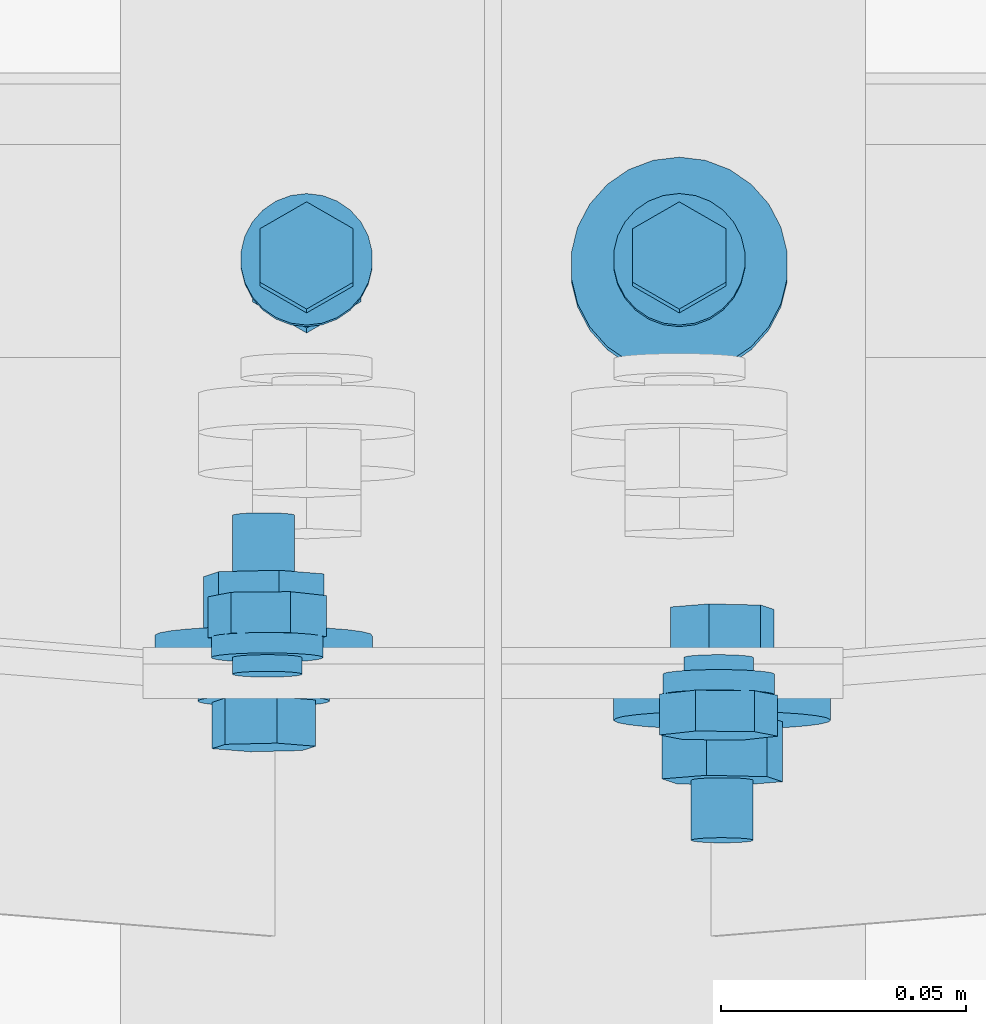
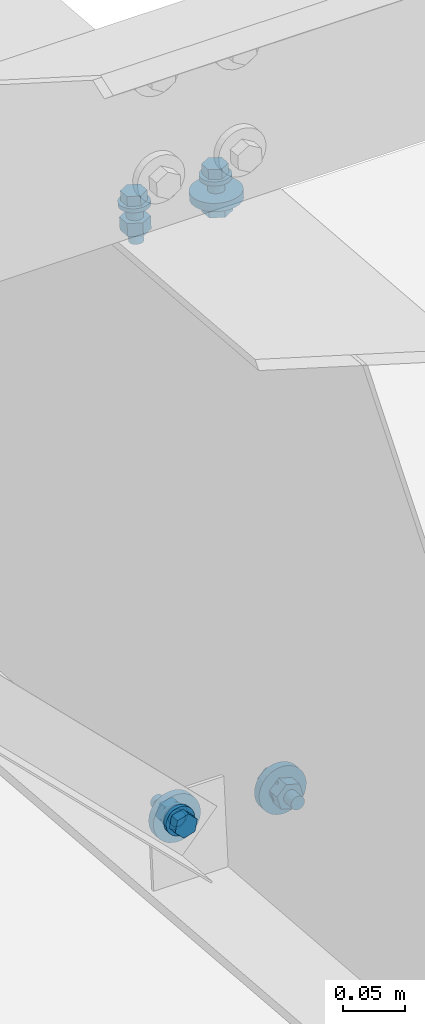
# One storey, part 158 of 185: 6 mechanical fasteners, 4 elements without a shape of their own.
"""IFC2X3 building model written with IfcOpenShell, lengths in millimetres."""

from ifc_helpers import new_model, si_unit, frame, origin_with_axes, origin_2d_with_axis, place, context, subcontext, project, spatial, polyline, circle, outline, extrude, source, transform, mapped, material, type_object, element, aggregate, save


model = new_model("IFC2X3")

# Units and contexts
model_context = context("Model", 3, precision=1e-05, world=origin_with_axes())
body_context = subcontext(model_context, "Body", "Model", "MODEL_VIEW")
ifc_project = project(units=[si_unit("LENGTHUNIT", "METRE", prefix="MILLI"), si_unit("AREAUNIT", "SQUARE_METRE"), si_unit("VOLUMEUNIT", "CUBIC_METRE"), si_unit("MASSUNIT", "GRAM", prefix="KILO"), si_unit("TIMEUNIT", "SECOND"), si_unit("PLANEANGLEUNIT", "RADIAN"), si_unit("SOLIDANGLEUNIT", "STERADIAN"), si_unit("THERMODYNAMICTEMPERATUREUNIT", "DEGREE_CELSIUS"), si_unit("LUMINOUSINTENSITYUNIT", "LUMEN")], contexts=[model_context])

# Site, building, storey
site_placement = place(None, origin_with_axes())
site = spatial("IfcSite", under=ifc_project, at=site_placement, Name="Undefined", CompositionType="ELEMENT")
building_placement = place(site_placement, origin_with_axes())
building = spatial("IfcBuilding", under=site, at=building_placement, Name="Undefined", CompositionType="ELEMENT")
storey_placement = place(building_placement, origin_with_axes())
storey = spatial("IfcBuildingStorey", under=building, at=storey_placement, Name="Undefined", CompositionType="ELEMENT", Elevation=0.0)

# Assembly, mechanical fastener
assembly_1_placement = place(storey_placement, origin_with_axes())
assembly_1 = element("IfcElementAssembly", 1, at=assembly_1_placement, inside=storey, Name="Steel Assembly", AssemblyPlace="NOTDEFINED", PredefinedType="RIGID_FRAME")
ifc_material_1 = material(Name="Undefined")
discrete_accessory_type = type_object("IfcDiscreteAccessoryType", Name="Bolt assembly")
shared_shape_1 = source(origin_with_axes(), body_context, "Body", "SweptSolid", [
    extrude(circle(Radius=7.14374971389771, at=origin_2d_with_axis()), frame((0.0, -1.59000001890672, 0.0), z_axis=(0.0, 1.0, 0.0), x_axis=(1.0, 0.0, 0.0)), (0.0, 0.0, 1.0), 1.7),
    extrude(outline(polyline([(10.9985221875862, 0.0), (5.4992610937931, 9.52499961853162), (-5.4992610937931, 9.52499961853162), (-10.9985221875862, 0.0), (-5.4992610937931, -9.52499961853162), (5.4992610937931, -9.52499961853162), (10.9985221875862, 0.0)])), frame((0.0, -15.0837496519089, 0.0), z_axis=(0.0, 1.0, 0.0), x_axis=(1.0, 0.0, 0.0)), (0.0, 0.0, 1.0), 9.5),
    extrude(circle(Radius=6.34999990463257, at=origin_2d_with_axis()), frame((0.0, -5.5587500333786, 0.0), z_axis=(0.0, 1.0, 0.0), x_axis=(1.0, 0.0, 0.0)), (0.0, 0.0, 1.0), 38.1),
    extrude(circle(Radius=13.4937496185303, at=origin_2d_with_axis()), frame((0.0, -5.5587500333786, 0.0), z_axis=(0.0, 1.0, 0.0), x_axis=(1.0, 0.0, 0.0)), (0.0, 0.0, 1.0), 4.0),
    extrude(circle(Radius=22.2250003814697, at=origin_2d_with_axis()), frame((0.0, 0.0, 0.0), z_axis=(0.0, 1.0, 0.0), x_axis=(1.0, 0.0, 0.0)), (0.0, 0.0, 1.0), 7.9),
    extrude(outline(polyline([(12.8316099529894, 0.0), (6.4158049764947, 11.1125001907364), (-6.4158049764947, 11.1125001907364), (-12.8316099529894, 0.0), (-6.4158049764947, -11.1125001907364), (6.4158049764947, -11.1125001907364), (12.8316099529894, 0.0)])), frame((0.0, 7.93750000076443, 0.0), z_axis=(0.0, 1.0, 0.0), x_axis=(1.0, 0.0, 0.0)), (0.0, 0.0, 1.0), 12.3),
])
mechanical_fastener_1_placement = place(assembly_1_placement, frame((22432.1255043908, 23836.3334696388, 6014.27804869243), z_axis=(-0.697745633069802, -0.0594892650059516, -0.713871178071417), x_axis=(-0.716345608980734, 0.0579446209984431, 0.6953354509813)))
mechanical_fastener_1 = element("IfcMechanicalFastener", 2, at=mechanical_fastener_1_placement, type_object=discrete_accessory_type, material=ifc_material_1, Name="Bolt assembly", NominalDiameter=12.6999998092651, NominalLength=38.0999984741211, context=body_context, shape_type="MappedRepresentation", body=[
    mapped(shared_shape_1, transform((0.0, 0.0, 0.0))),
])
aggregate(assembly_1, [mechanical_fastener_1])

assembly_2_placement = place(storey_placement, origin_with_axes())
assembly_2 = element("IfcElementAssembly", 3, at=assembly_2_placement, inside=storey, Name="Steel Assembly", AssemblyPlace="NOTDEFINED", PredefinedType="RIGID_FRAME")
shared_shape_2 = source(origin_with_axes(), body_context, "Body", "SweptSolid", [
    extrude(circle(Radius=7.14374971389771, at=origin_2d_with_axis()), frame((0.0, 0.0, 0.0), z_axis=(0.0, 1.0, 0.0), x_axis=(1.0, 0.0, 0.0)), (0.0, 0.0, 1.0), 1.7),
    extrude(outline(polyline([(10.9985221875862, 0.0), (5.4992610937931, 9.52499961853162), (-5.4992610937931, 9.52499961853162), (-10.9985221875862, 0.0), (-5.4992610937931, -9.52499961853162), (5.4992610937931, -9.52499961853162), (10.9985221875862, 0.0)])), frame((0.0, -13.4937496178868, 0.0), z_axis=(0.0, 1.0, 0.0), x_axis=(1.0, 0.0, 0.0)), (0.0, 0.0, 1.0), 9.5),
    extrude(circle(Radius=6.34999990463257, at=origin_2d_with_axis()), frame((0.0, -3.96874999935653, 0.0), z_axis=(0.0, 1.0, 0.0), x_axis=(1.0, 0.0, 0.0)), (0.0, 0.0, 1.0), 38.1),
    extrude(circle(Radius=13.4937496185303, at=origin_2d_with_axis()), frame((0.0, -3.96874999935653, 0.0), z_axis=(0.0, 1.0, 0.0), x_axis=(1.0, 0.0, 0.0)), (0.0, 0.0, 1.0), 4.0),
    extrude(circle(Radius=22.2250003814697, at=origin_2d_with_axis()), frame((0.0, 1.5900000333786, 0.0), z_axis=(0.0, 1.0, 0.0), x_axis=(1.0, 0.0, 0.0)), (0.0, 0.0, 1.0), 7.9),
    extrude(outline(polyline([(12.8316099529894, 0.0), (6.4158049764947, 11.1125001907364), (-6.4158049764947, 11.1125001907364), (-12.8316099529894, 0.0), (-6.4158049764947, -11.1125001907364), (6.4158049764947, -11.1125001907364), (12.8316099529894, 0.0)])), frame((0.0, 9.5275000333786, 0.0), z_axis=(0.0, 1.0, 0.0), x_axis=(1.0, 0.0, 0.0)), (0.0, 0.0, 1.0), 12.3),
])
mechanical_fastener_2_placement = place(assembly_2_placement, frame((22525.8744956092, 23836.3334696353, 6014.27804869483), z_axis=(0.697745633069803, -0.0594892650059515, -0.713871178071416), x_axis=(0.716345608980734, 0.0579446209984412, 0.6953354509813)))
mechanical_fastener_2 = element("IfcMechanicalFastener", 4, at=mechanical_fastener_2_placement, type_object=discrete_accessory_type, material=ifc_material_1, Name="Bolt assembly", NominalDiameter=12.6999998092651, NominalLength=38.0999984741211, context=body_context, shape_type="MappedRepresentation", body=[
    mapped(shared_shape_2, transform((0.0, 0.0, 0.0))),
])
aggregate(assembly_2, [mechanical_fastener_2])

# Assembly, mechanical fasteners
assembly_3_placement = place(storey_placement, origin_with_axes())
assembly_3 = element("IfcElementAssembly", 5, at=assembly_3_placement, inside=storey, Name="Steel Assembly", AssemblyPlace="NOTDEFINED", PredefinedType="RIGID_FRAME")
ifc_material_2 = material(Name="7990")
shared_shape_3 = source(origin_with_axes(), body_context, "Body", "SweptSolid", [
    extrude(circle(Radius=7.14374971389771, at=origin_2d_with_axis()), frame((0.0, -3.41600000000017, 0.0), z_axis=(0.0, 1.0, 0.0), x_axis=(1.0, 0.0, 0.0)), (0.0, 0.0, 1.0), 3.5),
    extrude(circle(Radius=11.4299998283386, at=origin_2d_with_axis()), frame((0.0, 0.0, 0.0), z_axis=(0.0, 1.0, 0.0), x_axis=(1.0, 0.0, 0.0)), (0.0, 0.0, 1.0), 4.2),
    extrude(outline(polyline([(12.171698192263, 0.0), (6.08584909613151, 10.5409998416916), (-6.08584909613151, 10.5409998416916), (-12.171698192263, 0.0), (-6.08584909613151, -10.5409998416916), (6.08584909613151, -10.5409998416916), (12.171698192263, 0.0)])), frame((0.0, 4.1909999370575, 0.0), z_axis=(0.0, 1.0, 0.0), x_axis=(1.0, 0.0, 0.0)), (0.0, 0.0, 1.0), 8.4),
])
mechanical_fastener_3_placement = place(assembly_3_placement, frame((22525.15815, 23836.2755250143, 6013.58271324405), z_axis=(-0.921635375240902, -0.0322263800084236, -0.386716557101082), x_axis=(0.388056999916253, -0.0765376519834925, -0.918451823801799)))
mechanical_fastener_3 = element("IfcMechanicalFastener", 6, at=mechanical_fastener_3_placement, type_object=discrete_accessory_type, material=ifc_material_2, Name="Bolt assembly", NominalDiameter=12.6999998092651, NominalLength=38.0999984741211, context=body_context, shape_type="MappedRepresentation", body=[
    mapped(shared_shape_3, transform((0.0, 0.0, 0.0))),
])
shared_shape_4 = source(origin_with_axes(), body_context, "Body", "SweptSolid", [
    extrude(circle(Radius=7.14374971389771, at=origin_2d_with_axis()), frame((0.0, 0.0, 0.0), z_axis=(0.0, 1.0, 0.0), x_axis=(1.0, 0.0, 0.0)), (0.0, 0.0, 1.0), 3.5),
    extrude(circle(Radius=11.4299998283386, at=origin_2d_with_axis()), frame((0.0, 3.41600000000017, 0.0), z_axis=(0.0, 1.0, 0.0), x_axis=(1.0, 0.0, 0.0)), (0.0, 0.0, 1.0), 4.2),
    extrude(outline(polyline([(12.171698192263, 0.0), (6.08584909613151, 10.5409998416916), (-6.08584909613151, 10.5409998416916), (-12.171698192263, 0.0), (-6.08584909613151, -10.5409998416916), (6.08584909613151, -10.5409998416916), (12.171698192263, 0.0)])), frame((0.0, 7.60699993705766, 0.0), z_axis=(0.0, 1.0, 0.0), x_axis=(1.0, 0.0, 0.0)), (0.0, 0.0, 1.0), 8.4),
])
mechanical_fastener_4_placement = place(assembly_3_placement, frame((22432.84185, 23836.2755250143, 6013.58271324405), z_axis=(0.921635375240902, -0.0322263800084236, -0.386716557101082), x_axis=(-0.388056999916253, -0.0765376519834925, -0.918451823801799)))
mechanical_fastener_4 = element("IfcMechanicalFastener", 7, at=mechanical_fastener_4_placement, type_object=discrete_accessory_type, material=ifc_material_2, Name="Bolt assembly", NominalDiameter=12.6999998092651, NominalLength=38.0999984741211, context=body_context, shape_type="MappedRepresentation", body=[
    mapped(shared_shape_4, transform((0.0, 0.0, 0.0))),
])
aggregate(assembly_3, [mechanical_fastener_4, mechanical_fastener_3])

assembly_4_placement = place(storey_placement, origin_with_axes())
assembly_4 = element("IfcElementAssembly", 8, at=assembly_4_placement, inside=storey, Name="Steel Assembly", AssemblyPlace="NOTDEFINED", PredefinedType="RIGID_FRAME")
shared_shape_5 = source(origin_with_axes(), body_context, "Body", "SweptSolid", [
    extrude(circle(Radius=7.14374971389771, at=origin_2d_with_axis()), frame((0.0, -0.0238014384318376, 0.0), z_axis=(0.0, 1.0, 0.0), x_axis=(1.0, 0.0, 0.0)), (0.0, 0.0, 1.0), 8.0),
    extrude(circle(Radius=7.14374971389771, at=origin_2d_with_axis()), frame((0.0, -3.08000006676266, 0.0), z_axis=(0.0, 1.0, 0.0), x_axis=(1.0, 0.0, 0.0)), (0.0, 0.0, 1.0), 3.2),
    extrude(circle(Radius=7.14374971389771, at=origin_2d_with_axis()), frame((0.0, -3.08000006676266, 0.0), z_axis=(0.0, 1.0, 0.0), x_axis=(1.0, 0.0, 0.0)), (0.0, 0.0, 1.0), 3.2),
    extrude(outline(polyline([(10.9985221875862, 0.0), (5.4992610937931, 9.52499961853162), (-5.4992610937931, 9.52499961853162), (-10.9985221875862, 0.0), (-5.4992610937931, -9.52499961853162), (5.4992610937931, -9.52499961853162), (10.9985221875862, 0.0)])), frame((0.0, -16.6737496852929, 0.0), z_axis=(0.0, 1.0, 0.0), x_axis=(1.0, 0.0, 0.0)), (0.0, 0.0, 1.0), 9.5),
    extrude(circle(Radius=6.34999990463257, at=origin_2d_with_axis()), frame((0.0, -7.14875006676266, 0.0), z_axis=(0.0, 1.0, 0.0), x_axis=(1.0, 0.0, 0.0)), (0.0, 0.0, 1.0), 38.1),
    extrude(circle(Radius=13.4937496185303, at=origin_2d_with_axis()), frame((0.0, -7.14875006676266, 0.0), z_axis=(0.0, 1.0, 0.0), x_axis=(1.0, 0.0, 0.0)), (0.0, 0.0, 1.0), 4.0),
    extrude(circle(Radius=22.2250003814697, at=origin_2d_with_axis()), frame((0.0, 7.95019856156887, 0.0), z_axis=(0.0, 1.0, 0.0), x_axis=(1.0, 0.0, 0.0)), (0.0, 0.0, 1.0), 7.9),
    extrude(outline(polyline([(12.8316099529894, 0.0), (6.4158049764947, 11.1125001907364), (-6.4158049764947, 11.1125001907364), (-12.8316099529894, 0.0), (-6.4158049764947, -11.1125001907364), (6.4158049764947, -11.1125001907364), (12.8316099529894, 0.0)])), frame((0.0, 15.8876985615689, 0.0), z_axis=(0.0, 1.0, 0.0), x_axis=(1.0, 0.0, 0.0)), (0.0, 0.0, 1.0), 12.3),
])
mechanical_fastener_5_placement = place(assembly_4_placement, frame((22517.1, 23920.5189522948, 6565.71908713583), z_axis=(-1.0, 0.0, 0.0), x_axis=(0.0, 0.996545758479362, -0.0830454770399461)))
mechanical_fastener_5 = element("IfcMechanicalFastener", 9, at=mechanical_fastener_5_placement, type_object=discrete_accessory_type, material=ifc_material_1, Name="Bolt assembly", NominalDiameter=12.6999998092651, NominalLength=38.0999984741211, context=body_context, shape_type="MappedRepresentation", body=[
    mapped(shared_shape_5, transform((0.0, 0.0, 0.0))),
])
shared_shape_6 = source(origin_with_axes(), body_context, "Body", "SweptSolid", [
    extrude(circle(Radius=7.14374971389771, at=origin_2d_with_axis()), frame((0.0, -0.0238014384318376, 0.0), z_axis=(0.0, 1.0, 0.0), x_axis=(1.0, 0.0, 0.0)), (0.0, 0.0, 1.0), 8.0),
    extrude(circle(Radius=7.14374971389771, at=origin_2d_with_axis()), frame((0.0, -3.08000006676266, 0.0), z_axis=(0.0, 1.0, 0.0), x_axis=(1.0, 0.0, 0.0)), (0.0, 0.0, 1.0), 3.2),
    extrude(circle(Radius=7.14374971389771, at=origin_2d_with_axis()), frame((0.0, -3.08000006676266, 0.0), z_axis=(0.0, 1.0, 0.0), x_axis=(1.0, 0.0, 0.0)), (0.0, 0.0, 1.0), 3.2),
    extrude(outline(polyline([(10.9985221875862, 0.0), (5.4992610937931, 9.52499961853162), (-5.4992610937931, 9.52499961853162), (-10.9985221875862, 0.0), (-5.4992610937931, -9.52499961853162), (5.4992610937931, -9.52499961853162), (10.9985221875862, 0.0)])), frame((0.0, -16.6737496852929, 0.0), z_axis=(0.0, 1.0, 0.0), x_axis=(1.0, 0.0, 0.0)), (0.0, 0.0, 1.0), 9.5),
    extrude(circle(Radius=6.34999990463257, at=origin_2d_with_axis()), frame((0.0, -7.14875006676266, 0.0), z_axis=(0.0, 1.0, 0.0), x_axis=(1.0, 0.0, 0.0)), (0.0, 0.0, 1.0), 38.1),
    extrude(circle(Radius=13.4937496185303, at=origin_2d_with_axis()), frame((0.0, -7.14875006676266, 0.0), z_axis=(0.0, 1.0, 0.0), x_axis=(1.0, 0.0, 0.0)), (0.0, 0.0, 1.0), 4.0),
    extrude(outline(polyline([(12.8316099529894, 0.0), (6.4158049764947, 11.1125001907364), (-6.4158049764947, 11.1125001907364), (-12.8316099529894, 0.0), (-6.4158049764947, -11.1125001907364), (6.4158049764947, -11.1125001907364), (12.8316099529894, 0.0)])), frame((0.0, 7.95019856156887, 0.0), z_axis=(0.0, 1.0, 0.0), x_axis=(1.0, 0.0, 0.0)), (0.0, 0.0, 1.0), 12.3),
])
mechanical_fastener_6_placement = place(assembly_4_placement, frame((22440.9, 23920.5189522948, 6565.71908713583), z_axis=(-1.0, 0.0, 0.0), x_axis=(0.0, 0.996545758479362, -0.0830454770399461)))
mechanical_fastener_6 = element("IfcMechanicalFastener", 10, at=mechanical_fastener_6_placement, type_object=discrete_accessory_type, material=ifc_material_1, Name="Bolt assembly", NominalDiameter=12.6999998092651, NominalLength=38.0999984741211, context=body_context, shape_type="MappedRepresentation", body=[
    mapped(shared_shape_6, transform((0.0, 0.0, 0.0))),
])
aggregate(assembly_4, [mechanical_fastener_5, mechanical_fastener_6])

save(model, "model.ifc")
